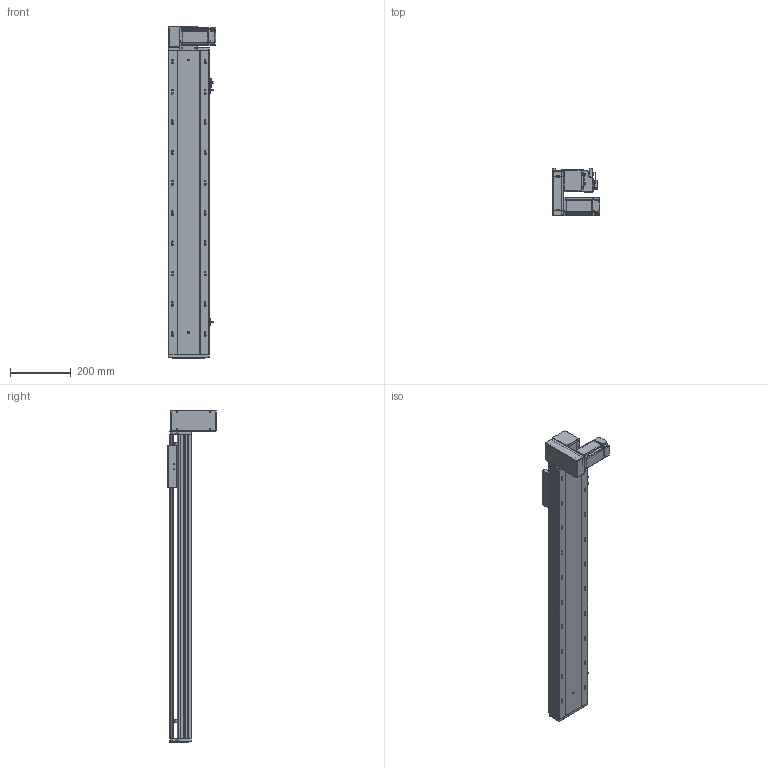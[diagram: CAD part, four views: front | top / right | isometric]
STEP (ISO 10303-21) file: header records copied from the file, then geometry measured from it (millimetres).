
FILE_DESCRIPTION (( 'STEP AP203' ), '1' );
FILE_NAME ('RY140-T-300-DL.SLDASM_750.step', '2021-03-01T06:06:04', ( '盈信电脑' ), ( '东莞市道滘镇水果街19号' ), 'SwSTEP 2.0', 'SolidWorks 2012', '' );
FILE_SCHEMA (( 'CONFIG_CONTROL_DESIGN' ));
Length unit declared in the file: millimetre
Products named in the file (18): RY140-T翋肮謫裔啣; RY140-T-300-DL.SLDASM_750; RY120-T蹟翐M4; 滅袉蝶18-10; RY120-T主同步轮轴承压盖; RY140-T萇儂欶; 侂狟400W侜督萇儂; RY140-T萇儂假蚾啣; 15; RY120-T肮祭湍揤踡輸1; RY120外置感应片(140共用）; RY140-T翋肮祭謫盓傅釱; RY120-T肮祭湍揤踡輸2; RY140肮祭謫臏賑輸; 覜茼ん672; RY140綴裔啣; RY140-T-300-DL倰第奻裔啣_750; RY140-T-300-DL倰第菁釱_750
Assembly tree (23 placements, depth 3):
  RY140-T-300-DL.SLDASM_750
    RY140-T-300-DL倰第菁釱_750
    RY140肮祭謫臏賑輸
    RY140-T-300-DL倰第奻裔啣_750
    RY140綴裔啣
    覜茼ん672  x3
    RY120外置感应片(140共用）
    RY120-T肮祭湍揤踡輸2
    RY120-T肮祭湍揤踡輸1
    RY140-T翋肮祭謫盓傅釱
    RY140-T萇儂假蚾啣
    侂狟400W侜督萇儂
      15
    RY120-T主同步轮轴承压盖
    RY120-T蹟翐M4  x4
    RY140-T萇儂欶
    滅袉蝶18-10  x2
    RY140-T翋肮謫裔啣
Bounding box: 157 x 158.5 x 1096 mm (x, y, z)
Volume: 3392702.6 mm3; surface area: 1281423.3 mm2
Topology: 22 solids, 22 shells, 2690 faces, 7410 edges, 4770 vertices
Faces by surface type: plane 1385, cylinder 1003, cone 202, bspline 100
Entity records: 85768 total; most frequent: CARTESIAN_POINT 21073, ORIENTED_EDGE 13340, DIRECTION 12604, EDGE_CURVE 6670, VERTEX_POINT 4369, LINE 4234, VECTOR 4234, AXIS2_PLACEMENT_3D 4185
